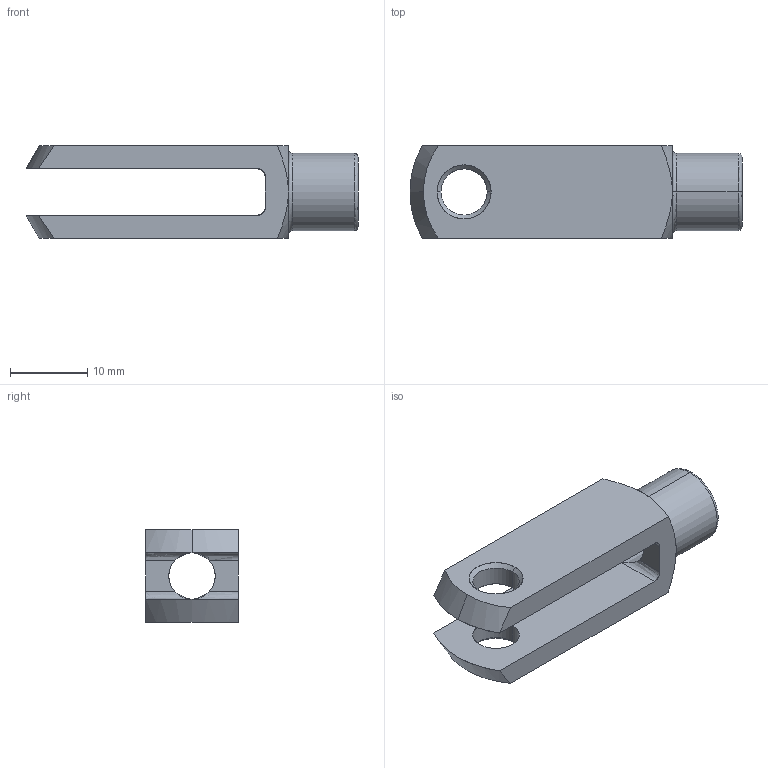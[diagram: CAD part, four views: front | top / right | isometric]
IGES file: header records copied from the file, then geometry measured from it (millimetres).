
Start section: SolidWorks IGES file using analytic representation for surfaces
Global section: file name: C:\Documents and Settings\IANO\My Documents\Wix and Auto CAD Work\CAD Models\Parametric Models\Wix Models\60000\65635_v2\65635_v2_IGES\65635.W0062.igs; native system: SolidWorks 2009; preprocessor: SolidWorks 2009; author: IANO; date: 140117.130419; units: millimetre
Bounding box: 43 x 12 x 12 mm (x, y, z)
Surface area: 2603.8 mm2 (no closed solid volume)
Topology: 0 solids, 0 shells, 39 faces, 576 edges, 576 vertices
Faces by surface type: revolution 25, bspline 14
